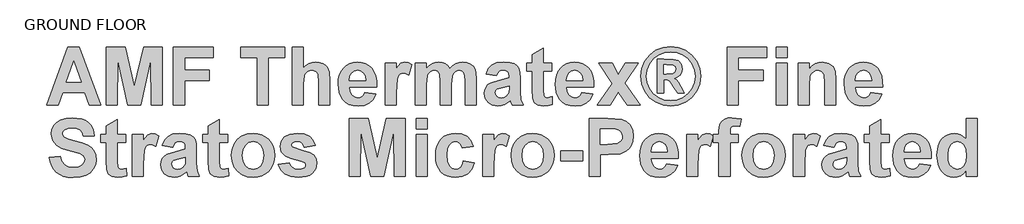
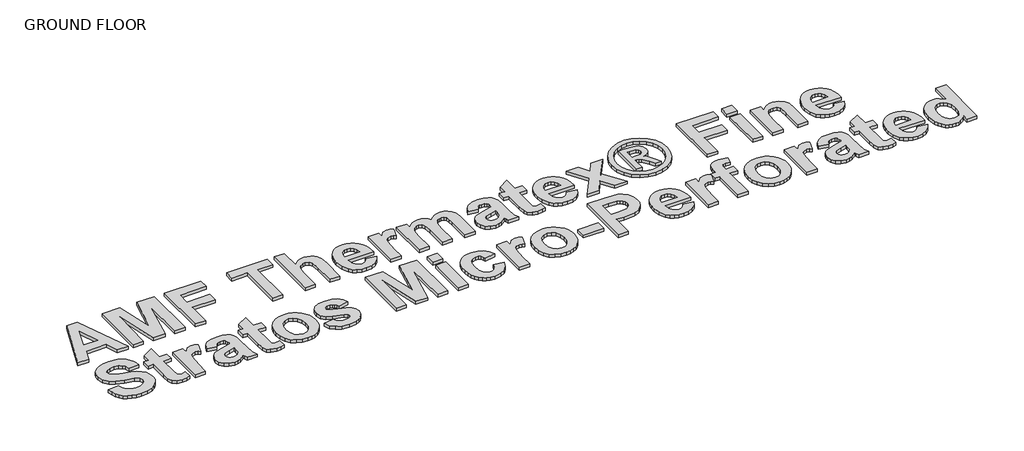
# One storey, part 2 of 2: 1 proxy.
"""IFC4 building model written with IfcOpenShell, lengths in millimetres."""

import ifcopenshell
import ifcopenshell.guid

model = None  # the IFC model being written
_history = None  # IfcOwnerHistory: only IFC2X3 demands one
_inside = {}  # id of a spatial element -> (the spatial element, [elements in it])
_under = {}  # id of a project, library or spatial element -> (it, [spatial elements below it])
_declared = {}  # id of a project -> (the project, [libraries it declares])
_typed = {}  # id of a type object -> (the type object, [elements of that type])
_made_of = {}  # id of a material, layer set ... -> (it, [elements and type objects made of it])


def new_model(schema):
    """Start an empty IFC model of exactly this schema.

    Asked for "IFC4X3", IfcOpenShell would pick the latest addendum, in which some entities
    have other attributes; the version numbers below select the first issue.
    IFC2X3 requires an IfcOwnerHistory on every rooted entity: one is made here for all.
    """
    global model, _history
    if schema == "IFC4X3":
        model = ifcopenshell.file(schema_version=(4, 3, 0, 0))
    else:
        model = ifcopenshell.file(schema=schema)
    _inside.clear()
    _under.clear()
    _declared.clear()
    _typed.clear()
    _made_of.clear()
    _history = None
    if model.schema == "IFC2X3":
        org = make("IfcOrganization", Name="unknown")
        user = make(
            "IfcPersonAndOrganization",
            ThePerson=make("IfcPerson", FamilyName="unknown"),
            TheOrganization=org,
        )
        app = make(
            "IfcApplication",
            ApplicationDeveloper=org,
            Version="unknown",
            ApplicationFullName="unknown",
            ApplicationIdentifier="unknown",
        )
        _history = make(
            "IfcOwnerHistory",
            OwningUser=user,
            OwningApplication=app,
            ChangeAction="ADDED",
            CreationDate=0,
        )
    return model


def make(cls, **values):
    """One entity of the class cls with the attributes given. An attribute that is None is left unset."""
    return model.create_entity(
        cls, **{name: value for name, value in values.items() if value is not None}
    )


def rooted(cls, **values):
    """An entity with a GlobalId (a new one), such as an element, a storey or a relation."""
    return make(cls, GlobalId=ifcopenshell.guid.new(), OwnerHistory=_history, **values)


def si_unit(unit_type, name, prefix=None):
    """IfcSIUnit, for example si_unit("LENGTHUNIT", "METRE", prefix="MILLI")."""
    return make("IfcSIUnit", UnitType=unit_type, Prefix=prefix, Name=name)


def assignment(units):
    """IfcUnitAssignment: the units of a project."""
    return None if units is None else make("IfcUnitAssignment", Units=units)


def point(xyz):
    """IfcCartesianPoint."""
    return None if xyz is None else make("IfcCartesianPoint", Coordinates=xyz)


def direction(xyz):
    """IfcDirection."""
    return None if xyz is None else make("IfcDirection", DirectionRatios=xyz)


def frame(location, z_axis=None, x_axis=None):
    """IfcAxis2Placement3D, a coordinate frame: its origin and axes. An axis left out is left unset."""
    return make(
        "IfcAxis2Placement3D",
        Location=point(location),
        Axis=direction(z_axis),
        RefDirection=direction(x_axis),
    )


def origin():
    """The frame at (0, 0, 0) with its axes left unset."""
    return frame((0.0, 0.0, 0.0))


def origin_with_axes():
    """The frame at (0, 0, 0) with the z axis (0, 0, 1) and the x axis (1, 0, 0) written out."""
    return frame((0.0, 0.0, 0.0), z_axis=(0.0, 0.0, 1.0), x_axis=(1.0, 0.0, 0.0))


def place(relative_to, where):
    """IfcLocalPlacement: puts the frame where relative to a parent placement (None: the world)."""
    return make(
        "IfcLocalPlacement", PlacementRelTo=relative_to, RelativePlacement=where
    )


def context(
    kind, dimensions, precision=None, world=None, true_north=None, identifier=None
):
    """IfcGeometricRepresentationContext, for example the 3D "Model" context."""
    return make(
        "IfcGeometricRepresentationContext",
        ContextIdentifier=identifier,
        ContextType=kind,
        CoordinateSpaceDimension=dimensions,
        Precision=precision,
        WorldCoordinateSystem=world,
        TrueNorth=true_north,
    )


def project(units=None, contexts=None):
    """IfcProject with its units and contexts."""
    return rooted(
        "IfcProject",
        Name="project",
        RepresentationContexts=contexts,
        UnitsInContext=assignment(units),
    )


def spatial(cls, under=None, at=None, **own):
    """A site, building, storey or space (cls), placed at a placement, below another one or the project."""
    s = rooted(cls, ObjectPlacement=at, **own)
    if under is not None:
        _under.setdefault(under.id(), (under, []))[1].append(s)
    return s


def polyline(points):
    """IfcPolyline through the points."""
    return make("IfcPolyline", Points=[point(p) for p in points])


def outline(outer, holes=None, kind="AREA"):
    """IfcArbitraryClosedProfileDef: a profile drawn as a closed curve; with holes, ...WithVoids."""
    if holes is None:
        return make("IfcArbitraryClosedProfileDef", ProfileType=kind, OuterCurve=outer)
    return make(
        "IfcArbitraryProfileDefWithVoids",
        ProfileType=kind,
        OuterCurve=outer,
        InnerCurves=holes,
    )


def extrude(swept, where, along, depth):
    """IfcExtrudedAreaSolid: the profile swept, set in the frame where, extruded along a direction by depth."""
    return make(
        "IfcExtrudedAreaSolid",
        SweptArea=swept,
        Position=where,
        ExtrudedDirection=direction(along),
        Depth=depth,
    )


def shape(context_of_items, identifier, shape_type, items):
    """IfcShapeRepresentation: the items that make up one representation, for example the "Body"."""
    return make(
        "IfcShapeRepresentation",
        ContextOfItems=context_of_items,
        RepresentationIdentifier=identifier,
        RepresentationType=shape_type,
        Items=items,
    )


def made_of(thing, what):
    """Note that an element or type object is made of a material, layer set ...; save() writes the relation."""
    if what is not None:
        _made_of.setdefault(what.id(), (what, []))[1].append(thing)
    return thing


def element(
    cls,
    number,
    at=None,
    inside=None,
    cuts=None,
    type_object=None,
    material=None,
    context=None,
    identifier="Body",
    shape_type=None,
    held_by="IfcProductDefinitionShape",
    body=None,
    shapes=None,
    **own,
):
    """One element of the class cls, such as IfcWall. Its Tag is "e" and its number.

    at: its placement. inside: the storey or other place that contains it. cuts: it is an
    opening in that element (IfcRelVoidsElement). A single representation is given by context,
    identifier, shape_type and body (its items); several are given by shapes. held_by: the class
    of the entity that holds the representations. save() writes the other relations.
    """
    e = rooted(cls, Tag="e%d" % number, ObjectPlacement=at, **own)
    if body is not None:
        shapes = [shape(context, identifier, shape_type, body)]
    if shapes is not None:
        e.Representation = make(held_by, Representations=shapes)
    if inside is not None:
        _inside.setdefault(inside.id(), (inside, []))[1].append(e)
    if cuts is not None:
        rooted(
            "IfcRelVoidsElement", RelatingBuildingElement=cuts, RelatedOpeningElement=e
        )
    if type_object is not None:
        _typed.setdefault(type_object.id(), (type_object, []))[1].append(e)
    return made_of(e, material)


def aggregate(whole, parts):
    """IfcRelAggregates: a whole, such as a stair, and the parts it consists of."""
    return rooted("IfcRelAggregates", RelatingObject=whole, RelatedObjects=parts)


def save(model, path):
    """Write the relations noted so far, then the file.

    IfcRelAggregates (storeys below a building ...), IfcRelContainedInSpatialStructure (elements
    in a storey), IfcRelDefinesByType, IfcRelAssociatesMaterial and IfcRelDeclares: one each for
    every whole, place, type object, material and project.
    """
    for whole, parts in _under.values():
        aggregate(whole, parts)
    for where, things in _inside.values():
        rooted(
            "IfcRelContainedInSpatialStructure",
            RelatedElements=things,
            RelatingStructure=where,
        )
    for kind, things in _typed.values():
        rooted("IfcRelDefinesByType", RelatedObjects=things, RelatingType=kind)
    for what, things in _made_of.values():
        rooted("IfcRelAssociatesMaterial", RelatedObjects=things, RelatingMaterial=what)
    for by, libraries in _declared.values():
        rooted("IfcRelDeclares", RelatingContext=by, RelatedDefinitions=libraries)
    model.write(path)


model = new_model("IFC4")

# Units and contexts
model_context = context("Model", 3, world=origin())
ifc_project = project(units=[si_unit("LENGTHUNIT", "METRE", prefix="MILLI")], contexts=[model_context])

# Site, building, storey
site = spatial("IfcSite", under=ifc_project)
building = spatial("IfcBuilding", under=site)
storey = spatial("IfcBuildingStorey", under=building, Name="GROUND FLOOR", Elevation=0.0)

# Proxy
placement = place(None, origin())
element("IfcBuildingElementProxy", 1, Name="600mm Arial", ObjectType="600mm Arial", at=placement, inside=storey, context=model_context, shape_type="SweptSolid", body=[
    extrude(outline(polyline([(-7411.3659202, -14237.2370141), (-7462.4168463, -14237.2370141), (-7482.4070478, -14180.5559363), (-7578.752228, -14180.5559363), (-7598.489389, -14237.2370141), (-7650.2361766, -14237.2370141), (-7557.1172631, -13982.1721641), (-7505.3704756, -13982.1721641), (-7411.3659202, -14237.2370141)]), holes=[polyline([(-7497.9690402, -14136.0208038), (-7530.8010484, -14042.9018903), (-7563.1902357, -14136.0208038), (-7497.9690402, -14136.0208038)])]), origin_with_axes(), (0.0, 0.0, 1.0), 15.0),
    extrude(outline(polyline([(-7387.0740298, -14237.2370141), (-7387.0740298, -13982.1721641), (-7303.8236968, -13982.1721641), (-7263.5902532, -14156.1375256), (-7223.3568096, -13982.1721641), (-7140.1064766, -13982.1721641), (-7140.1064766, -14237.2370141), (-7188.6902575, -14237.2370141), (-7190.7145817, -14036.4493569), (-7235.123194, -14237.2370141), (-7291.9940522, -14237.2370141), (-7336.4659246, -14036.4493569), (-7338.4902488, -14237.2370141), (-7387.0740298, -14237.2370141)])), origin_with_axes(), (0.0, 0.0, 1.0), 15.0),
    extrude(outline(polyline([(-7091.5226956, -14237.2370141), (-7091.5226956, -13982.1721641), (-6917.4308139, -13982.1721641), (-6917.4308139, -14026.7072966), (-7042.9389147, -14026.7072966), (-7042.9389147, -14083.3883744), (-6933.6254076, -14083.3883744), (-6933.6254076, -14127.9235069), (-7042.9389147, -14127.9235069), (-7042.9389147, -14237.2370141), (-7091.5226956, -14237.2370141)])), origin_with_axes(), (0.0, 0.0, 1.0), 15.0),
    extrude(outline(polyline([(-6723.0956901, -14237.2370141), (-6723.0956901, -14026.7072966), (-6795.9713615, -14026.7072966), (-6795.9713615, -13982.1721641), (-6601.6362377, -13982.1721641), (-6601.6362377, -14026.7072966), (-6674.5119092, -14026.7072966), (-6674.5119092, -14237.2370141), (-6723.0956901, -14237.2370141)])), origin_with_axes(), (0.0, 0.0, 1.0), 15.0),
    extrude(outline(polyline([(-6520.6632695, -13982.1721641), (-6520.6632695, -14074.531956), (-6508.4580179, -14062.4650859), (-6495.1219914, -14053.845893), (-6480.6551901, -14048.6743773), (-6465.0576139, -14046.9505387), (-6449.2425811, -14048.5241345), (-6435.0723116, -14053.2449218), (-6423.3691873, -14060.4249467), (-6414.9555898, -14069.3762553), (-6405.7196106, -14091.1061104), (-6403.2524655, -14128.0500272), (-6403.2524655, -14237.2370141), (-6451.8362465, -14237.2370141), (-6451.8362465, -14138.1716482), (-6454.5564321, -14100.6900203), (-6464.1719721, -14088.0696241), (-6481.3787278, -14083.3883744), (-6492.6390312, -14084.8908025), (-6502.634132, -14089.3980869), (-6510.7393364, -14096.9260425), (-6516.3299505, -14107.4904845), (-6520.6632695, -14143.2957189), (-6520.6632695, -14237.2370141), (-6569.2470504, -14237.2370141), (-6569.2470504, -13982.1721641), (-6520.6632695, -13982.1721641)])), origin_with_axes(), (0.0, 0.0, 1.0), 15.0),
    extrude(outline(polyline([(-6249.4038258, -14180.5559363), (-6200.8200449, -14188.6532331), (-6212.6496895, -14211.3240827), (-6229.7931851, -14227.8428846), (-6252.0765664, -14237.924968), (-6279.325868, -14241.2856625), (-6301.3285325, -14239.3048296), (-6320.2709881, -14233.362331), (-6336.1532348, -14223.4581667), (-6348.9752727, -14209.5923366), (-6362.3547905, -14180.888052), (-6366.8146298, -14145.5098235), (-6365.3359242, -14123.6692631), (-6360.8998075, -14104.3274779), (-6353.5062796, -14087.4844679), (-6343.1553406, -14073.1402331), (-6330.5428519, -14061.6822418), (-6316.364675, -14053.4979623), (-6300.6208098, -14048.5873946), (-6283.3112563, -14046.9505387), (-6264.0762226, -14048.6308859), (-6246.9841258, -14053.6719277), (-6232.034966, -14062.0736639), (-6219.2287431, -14073.8360945), (-6209.0240932, -14089.069925), (-6201.8796521, -14107.8858603), (-6197.7954199, -14130.2839006), (-6196.7713965, -14156.2640458), (-6318.2308488, -14156.2640458), (-6315.1152874, -14176.7286983), (-6306.7807651, -14192.0692802), (-6294.4924845, -14201.6531901), (-6279.5156484, -14204.8478268), (-6269.3149522, -14203.4086588), (-6260.8539096, -14199.0911548), (-6254.1957808, -14191.5790142), (-6249.4038258, -14180.5559363)]), holes=[polyline([(-6245.3551774, -14127.9235069), (-6248.3125886, -14108.7161495), (-6256.1726599, -14094.743568), (-6267.5911136, -14086.2271728), (-6281.223672, -14083.3883744), (-6295.6153519, -14086.3774156), (-6307.2868461, -14095.3445392), (-6314.941322, -14109.4989937), (-6317.4084671, -14127.9235069), (-6245.3551774, -14127.9235069)])]), origin_with_axes(), (0.0, 0.0, 1.0), 15.0),
    extrude(outline(polyline([(-6111.7497798, -14237.2370141), (-6160.3335608, -14237.2370141), (-6160.3335608, -14050.9991871), (-6111.7497798, -14050.9991871), (-6111.7497798, -14076.935841), (-6092.3289195, -14052.7388407), (-6072.7182787, -14046.9505387), (-6057.5516622, -14049.512574), (-6042.9227568, -14057.19868), (-6057.0930262, -14103.4418361), (-6068.7961506, -14097.5111987), (-6079.613633, -14095.5343196), (-6096.7254986, -14101.0695811), (-6102.9724366, -14108.8268548), (-6107.7327615, -14121.0281526), (-6111.7497798, -14181.5048383), (-6111.7497798, -14237.2370141)])), origin_with_axes(), (0.0, 0.0, 1.0), 15.0),
    extrude(outline(polyline([(-6026.7281631, -14050.9991871), (-5978.1443822, -14050.9991871), (-5978.1443822, -14075.9236789), (-5966.1842636, -14063.24793), (-5953.1408152, -14054.1938237), (-5939.0140371, -14048.7613599), (-5923.8039293, -14046.9505387), (-5908.1549543, -14048.7297299), (-5894.7358989, -14054.0673035), (-5883.5309481, -14063.0107046), (-5874.5242869, -14075.6073782), (-5862.0857635, -14063.0107046), (-5848.6825232, -14054.0673035), (-5834.3303809, -14048.7297299), (-5819.0451516, -14046.9505387), (-5800.5890083, -14049.0302155), (-5785.2009813, -14055.269246), (-5773.0866661, -14065.5411098), (-5764.4516582, -14079.7192868), (-5760.7509405, -14095.2970941), (-5759.5173679, -14118.2447068), (-5759.5173679, -14237.2370141), (-5808.1011489, -14237.2370141), (-5808.1011489, -14130.0110913), (-5809.3347214, -14107.0634786), (-5813.0354391, -14094.0160765), (-5821.4174065, -14086.0452999), (-5833.4052014, -14083.3883744), (-5843.1077241, -14084.9777852), (-5852.2250906, -14089.7460176), (-5859.8163063, -14097.5823664), (-5864.940377, -14108.3761263), (-5868.8308751, -14147.1545869), (-5868.8308751, -14237.2370141), (-5917.414656, -14237.2370141), (-5917.414656, -14134.4393005), (-5919.9450613, -14099.1085171), (-5927.7576875, -14087.2788725), (-5942.1493674, -14083.3883744), (-5952.539844, -14084.9303401), (-5961.8232683, -14089.5562372), (-5969.3195939, -14097.1000079), (-5974.3487743, -14107.3955943), (-5978.1443822, -14146.0791647), (-5978.1443822, -14237.2370141), (-6026.7281631, -14237.2370141), (-6026.7281631, -14050.9991871)])), origin_with_axes(), (0.0, 0.0, 1.0), 15.0),
    extrude(outline(polyline([(-5670.4471028, -14107.6802649), (-5714.9822354, -14099.582968), (-5705.3271578, -14076.2399795), (-5690.5321946, -14059.8556055), (-5668.9683973, -14050.1768054), (-5639.0068175, -14046.9505387), (-5611.9156662, -14048.9036952), (-5592.7636614, -14054.7631649), (-5579.8269645, -14063.6195833), (-5571.381737, -14074.5635861), (-5566.7321173, -14091.5726539), (-5565.1822441, -14118.6242676), (-5565.1822441, -14176.064467), (-5562.6202088, -14212.2492622), (-5553.0362989, -14237.2370141), (-5601.6200798, -14237.2370141), (-5606.1748093, -14221.801542), (-5607.8828328, -14215.6653093), (-5633.8827469, -14234.8647591), (-5648.1953516, -14239.6804367), (-5663.4252283, -14241.2856625), (-5688.1994772, -14237.3872569), (-5707.106349, -14225.6920401), (-5719.0862364, -14208.0503709), (-5723.0795322, -14186.3126083), (-5721.300341, -14171.4148473), (-5715.9627674, -14158.2251099), (-5707.4147422, -14147.3285523), (-5696.0041959, -14139.3103306), (-5658.9970191, -14127.8602468), (-5613.7660251, -14115.7775617), (-5613.7660251, -14110.6534911), (-5615.2763607, -14098.0330948), (-5619.8073676, -14089.6511274), (-5628.5135432, -14084.9540627), (-5642.5493849, -14083.3883744), (-5652.6235608, -14084.7326522), (-5660.1989616, -14088.7654856), (-5670.4471028, -14107.6802649)]), holes=[polyline([(-5613.7660251, -14152.2153974), (-5641.157662, -14158.9526014), (-5665.702593, -14166.6387074), (-5672.2974617, -14173.5498767), (-5674.4957513, -14182.1374396), (-5672.7323751, -14190.748725), (-5667.4422466, -14198.1106228), (-5659.4319325, -14203.1635258), (-5649.5079993, -14204.8478268), (-5637.5992796, -14202.8867627), (-5626.2915311, -14197.0035705), (-5615.5373087, -14182.4537402), (-5613.7660251, -14161.0085557), (-5613.7660251, -14152.2153974)])]), origin_with_axes(), (0.0, 0.0, 1.0), 15.0),
    extrude(outline(polyline([(-5427.5281981, -14050.9991871), (-5427.5281981, -14087.4370228), (-5463.9660338, -14087.4370228), (-5463.9660338, -14167.3345688), (-5462.8589815, -14195.5802175), (-5457.8298011, -14202.2225313), (-5448.2775212, -14204.8478268), (-5425.5038739, -14200.166577), (-5423.4795497, -14234.7066088), (-5442.2203636, -14239.6408991), (-5463.2701724, -14241.2856625), (-5487.8151034, -14236.730933), (-5503.8515467, -14224.9645486), (-5510.9683115, -14205.417168), (-5512.5498148, -14170.0547545), (-5512.5498148, -14087.4370228), (-5536.8417052, -14087.4370228), (-5536.8417052, -14050.9991871), (-5512.5498148, -14050.9991871), (-5512.5498148, -14014.5613514), (-5463.9660338, -13986.2208125), (-5463.9660338, -14050.9991871), (-5427.5281981, -14050.9991871)])), origin_with_axes(), (0.0, 0.0, 1.0), 15.0),
    extrude(outline(polyline([(-5293.9228005, -14180.5559363), (-5245.3390195, -14188.6532331), (-5257.1686641, -14211.3240827), (-5274.3121597, -14227.8428846), (-5296.595541, -14237.924968), (-5323.8448427, -14241.2856625), (-5345.8475071, -14239.3048296), (-5364.7899627, -14233.362331), (-5380.6722095, -14223.4581667), (-5393.4942474, -14209.5923366), (-5406.8737652, -14180.888052), (-5411.3336044, -14145.5098235), (-5409.8548989, -14123.6692631), (-5405.4187822, -14104.3274779), (-5398.0252543, -14087.4844679), (-5387.6743153, -14073.1402331), (-5375.0618266, -14061.6822418), (-5360.8836496, -14053.4979623), (-5345.1397844, -14048.5873946), (-5327.8302309, -14046.9505387), (-5308.5951972, -14048.6308859), (-5291.5031005, -14053.6719277), (-5276.5539406, -14062.0736639), (-5263.7477178, -14073.8360945), (-5253.5430678, -14089.069925), (-5246.3986267, -14107.8858603), (-5242.3143945, -14130.2839006), (-5241.2903711, -14156.2640458), (-5362.7498235, -14156.2640458), (-5359.634262, -14176.7286983), (-5351.2997397, -14192.0692802), (-5339.0114592, -14201.6531901), (-5324.034623, -14204.8478268), (-5313.8339269, -14203.4086588), (-5305.3728843, -14199.0911548), (-5298.7147554, -14191.5790142), (-5293.9228005, -14180.5559363)]), holes=[polyline([(-5289.8741521, -14127.9235069), (-5292.8315632, -14108.7161495), (-5300.6916345, -14094.743568), (-5312.1100883, -14086.2271728), (-5325.7426466, -14083.3883744), (-5340.1343265, -14086.3774156), (-5351.8058208, -14095.3445392), (-5359.4602967, -14109.4989937), (-5361.9274418, -14127.9235069), (-5289.8741521, -14127.9235069)])]), origin_with_axes(), (0.0, 0.0, 1.0), 15.0),
    extrude(outline(polyline([(-5227.1201017, -14237.2370141), (-5161.329565, -14141.3346548), (-5219.0228048, -14050.9991871), (-5161.2663048, -14050.9991871), (-5133.1788065, -14102.1766334), (-5102.6874231, -14050.9991871), (-5044.9309231, -14050.9991871), (-5104.3321865, -14139.1838103), (-5036.8336263, -14237.2370141), (-5094.5901263, -14237.2370141), (-5133.1788065, -14179.5437742), (-5169.3636017, -14237.2370141), (-5227.1201017, -14237.2370141)])), origin_with_axes(), (0.0, 0.0, 1.0), 15.0),
    extrude(outline(polyline([(-4903.2282287, -13978.1235157), (-4870.0720123, -13982.354037), (-4838.2917037, -13995.0456008), (-4810.5284136, -14015.6367736), (-4789.4232522, -14043.5661217), (-4776.0911795, -14075.8999563), (-4771.6471553, -14109.7045891), (-4776.0041968, -14143.2640888), (-4789.0753215, -14175.2420853), (-4809.9432573, -14202.9895604), (-4837.6907325, -14223.8574963), (-4869.6687289, -14236.9286209), (-4903.2282287, -14241.2856625), (-4936.7877284, -14236.9286209), (-4968.7657248, -14223.8574963), (-4996.5132, -14202.9895604), (-5017.3811359, -14175.2420853), (-5030.4522605, -14143.2640888), (-5034.8093021, -14109.7045891), (-5030.3652778, -14075.8999563), (-5017.0332051, -14043.5661217), (-4995.9280438, -14015.6367736), (-4968.1647536, -13995.0456008), (-4936.3844451, -13982.354037), (-4903.2282287, -13978.1235157)]), holes=[polyline([(-4903.2914888, -14002.4154061), (-4930.2956574, -14005.8551758), (-4956.1453286, -14016.1744847), (-4978.7371031, -14032.9305121), (-4995.9675814, -14055.6804368), (-5006.879954, -14082.0440966), (-5010.5174116, -14109.6413289), (-5006.9669367, -14137.0092433), (-4996.3155121, -14163.06451), (-4979.2985367, -14185.6800069), (-4956.6514097, -14202.7286124), (-4930.580328, -14213.4274821), (-4903.2914888, -14216.993772), (-4875.931482, -14213.4274821), (-4849.8999379, -14202.7286124), (-4827.3002559, -14185.6800069), (-4810.2358354, -14163.06451), (-4799.5132432, -14137.0092433), (-4795.9390457, -14109.6413289), (-4799.5765033, -14082.0440966), (-4810.488876, -14055.6804368), (-4827.7430768, -14032.9305121), (-4850.4060189, -14016.1744847), (-4876.3110427, -14005.8551758), (-4903.2914888, -14002.4154061)])]), origin_with_axes(), (0.0, 0.0, 1.0), 15.0),
    extrude(outline(polyline([(-4961.9336307, -14184.6045847), (-4961.9336307, -14034.8045934), (-4934.5419937, -14034.8045934), (-4891.4618442, -14035.1841542), (-4870.3013303, -14041.1622367), (-4857.680934, -14055.5539166), (-4852.6201235, -14076.9991011), (-4854.9686559, -14092.0233823), (-4862.014253, -14104.7070387), (-4873.314094, -14114.0379081), (-4888.4253579, -14119.0038284), (-4878.6516676, -14124.6339801), (-4869.194278, -14136.147324), (-4858.8828765, -14154.3662419), (-4844.5228267, -14184.6045847), (-4872.8633656, -14184.6045847), (-4886.8438546, -14160.6289949), (-4908.2574091, -14130.1376115), (-4916.4733187, -14125.4405468), (-4926.6344773, -14123.8748585), (-4933.5930918, -14123.8748585), (-4933.5930918, -14184.6045847), (-4961.9336307, -14184.6045847)]), holes=[polyline([(-4933.5930918, -14099.582968), (-4922.5225688, -14099.582968), (-4893.2331279, -14097.5902739), (-4884.2501892, -14090.5683993), (-4880.9606624, -14079.1499456), (-4884.1869291, -14068.1110527), (-4893.3596482, -14061.1840683), (-4922.5225688, -14059.0964839), (-4933.5930918, -14059.0964839), (-4933.5930918, -14099.582968)])]), origin_with_axes(), (0.0, 0.0, 1.0), 15.0),
    extrude(outline(polyline([(-4654.2363513, -14237.2370141), (-4654.2363513, -13982.1721641), (-4480.1444696, -13982.1721641), (-4480.1444696, -14026.7072966), (-4605.6525704, -14026.7072966), (-4605.6525704, -14083.3883744), (-4496.3390632, -14083.3883744), (-4496.3390632, -14127.9235069), (-4605.6525704, -14127.9235069), (-4605.6525704, -14237.2370141), (-4654.2363513, -14237.2370141)])), origin_with_axes(), (0.0, 0.0, 1.0), 15.0),
    extrude(outline(polyline([(-4439.6579854, -14026.7072966), (-4439.6579854, -13982.1721641), (-4391.0742045, -13982.1721641), (-4391.0742045, -14026.7072966), (-4439.6579854, -14026.7072966)])), origin_with_axes(), (0.0, 0.0, 1.0), 15.0),
    extrude(outline(polyline([(-4439.6579854, -14237.2370141), (-4439.6579854, -14050.9991871), (-4391.0742045, -14050.9991871), (-4391.0742045, -14237.2370141), (-4439.6579854, -14237.2370141)])), origin_with_axes(), (0.0, 0.0, 1.0), 15.0),
    extrude(outline(polyline([(-4176.4958386, -14237.2370141), (-4225.0796196, -14237.2370141), (-4225.0796196, -14141.5244352), (-4228.1161059, -14102.1766334), (-4238.0479465, -14088.3226647), (-4254.5588408, -14083.3883744), (-4266.3173178, -14085.1517506), (-4276.794777, -14090.4418791), (-4285.0818542, -14098.6498811), (-4290.269185, -14109.166878), (-4293.9066426, -14152.2786575), (-4293.9066426, -14237.2370141), (-4342.4904235, -14237.2370141), (-4342.4904235, -14050.9991871), (-4293.9066426, -14050.9991871), (-4293.9066426, -14077.8214828), (-4281.6144083, -14064.3154448), (-4267.8276534, -14054.6682747), (-4252.5463779, -14048.8799727), (-4235.7705818, -14046.9505387), (-4207.5565632, -14052.8337309), (-4188.1989629, -14067.8263821), (-4179.0578739, -14088.480815), (-4176.4958386, -14121.5974938), (-4176.4958386, -14237.2370141)])), origin_with_axes(), (0.0, 0.0, 1.0), 15.0),
    extrude(outline(polyline([(-4022.6471989, -14180.5559363), (-3974.063418, -14188.6532331), (-3985.8930626, -14211.3240827), (-4003.0365582, -14227.8428846), (-4025.3199395, -14237.924968), (-4052.5692411, -14241.2856625), (-4074.5719056, -14239.3048296), (-4093.5143612, -14233.362331), (-4109.3966079, -14223.4581667), (-4122.2186458, -14209.5923366), (-4135.5981636, -14180.888052), (-4140.0580029, -14145.5098235), (-4138.5792973, -14123.6692631), (-4134.1431806, -14104.3274779), (-4126.7496528, -14087.4844679), (-4116.3987137, -14073.1402331), (-4103.786225, -14061.6822418), (-4089.6080481, -14053.4979623), (-4073.8641829, -14048.5873946), (-4056.5546294, -14046.9505387), (-4037.3195957, -14048.6308859), (-4020.2274989, -14053.6719277), (-4005.2783391, -14062.0736639), (-3992.4721162, -14073.8360945), (-3982.2674663, -14089.069925), (-3975.1230252, -14107.8858603), (-3971.038793, -14130.2839006), (-3970.0147696, -14156.2640458), (-4091.474222, -14156.2640458), (-4088.3586605, -14176.7286983), (-4080.0241382, -14192.0692802), (-4067.7358576, -14201.6531901), (-4052.7590215, -14204.8478268), (-4042.5583253, -14203.4086588), (-4034.0972827, -14199.0911548), (-4027.4391539, -14191.5790142), (-4022.6471989, -14180.5559363)]), holes=[polyline([(-4018.5985505, -14127.9235069), (-4021.5559617, -14108.7161495), (-4029.416033, -14094.743568), (-4040.8344867, -14086.2271728), (-4054.4670451, -14083.3883744), (-4068.858725, -14086.3774156), (-4080.5302192, -14095.3445392), (-4088.1846951, -14109.4989937), (-4090.6518403, -14127.9235069), (-4018.5985505, -14127.9235069)])]), origin_with_axes(), (0.0, 0.0, 1.0), 15.0),
    extrude(outline(polyline([(-7638.0902313, -14466.993772), (-7589.5064504, -14462.9451236), (-7582.4213157, -14484.6749788), (-7570.5284109, -14499.7625201), (-7553.7486611, -14508.5873084), (-7532.0029909, -14511.5289045), (-7509.434939, -14508.9273316), (-7493.2245303, -14501.1226129), (-7483.45084, -14489.838587), (-7480.1929432, -14476.7990924), (-7485.6016845, -14461.5850308), (-7504.5480939, -14450.6726581), (-7546.6793414, -14439.8551756), (-7582.6427261, -14428.6739474), (-7606.0173447, -14414.993944), (-7623.9990371, -14391.6984006), (-7629.9929345, -14363.8164976), (-7627.2411188, -14345.0282386), (-7618.9856716, -14327.5051822), (-7605.5428937, -14312.6232363), (-7587.2290857, -14301.7583087), (-7564.3447331, -14295.1159949), (-7537.1903217, -14292.9018903), (-7495.225132, -14298.4213367), (-7478.6845845, -14305.3206448), (-7465.1054019, -14314.9796761), (-7454.4440929, -14326.9397947), (-7446.6571661, -14340.7423647), (-7441.7446215, -14356.3873859), (-7439.7064591, -14373.8748585), (-7488.2902401, -14373.8748585), (-7493.6594437, -14357.1820913), (-7502.9349605, -14345.9455105), (-7516.9708022, -14339.5641447), (-7536.6209805, -14337.4370228), (-7557.3070435, -14339.6985725), (-7572.9322959, -14346.4832216), (-7579.2899392, -14353.2836857), (-7581.4091536, -14362.0452139), (-7579.4797195, -14370.3164761), (-7573.6914175, -14377.2909056), (-7556.8879451, -14385.4593701), (-7526.0881686, -14393.8966901), (-7493.2166228, -14402.6740334), (-7470.1978425, -14411.8625675), (-7454.066509, -14422.9884431), (-7441.8573036, -14437.5778109), (-7434.1711976, -14455.8125438), (-7431.6091623, -14477.8745146), (-7434.6377411, -14498.9401384), (-7443.7234775, -14518.6140393), (-7458.3523829, -14535.1565636), (-7478.0104687, -14546.8280579), (-7502.911238, -14553.7550423), (-7533.2681935, -14556.0640371), (-7555.9706732, -14554.642661), (-7575.8738921, -14550.3785328), (-7592.9778501, -14543.2716524), (-7607.2825473, -14533.3220198), (-7618.8868277, -14520.6482479), (-7627.8895351, -14505.3689492), (-7634.2906697, -14487.484124), (-7638.0902313, -14466.993772)])), origin_with_axes(), (0.0, 0.0, 1.0), 15.0),
    extrude(outline(polyline([(-7302.0524131, -14365.7775617), (-7302.0524131, -14402.2153974), (-7338.4902488, -14402.2153974), (-7338.4902488, -14482.1129434), (-7337.3831965, -14510.3585921), (-7332.3540161, -14517.0009059), (-7322.8017362, -14519.6262014), (-7300.0280889, -14514.9449516), (-7298.0037647, -14549.4849834), (-7316.7445786, -14554.4192737), (-7337.7943874, -14556.0640371), (-7362.3393184, -14551.5093076), (-7378.3757617, -14539.7429232), (-7385.4925265, -14520.1955426), (-7387.0740298, -14484.8331291), (-7387.0740298, -14402.2153974), (-7411.3659202, -14402.2153974), (-7411.3659202, -14365.7775617), (-7387.0740298, -14365.7775617), (-7387.0740298, -14329.339726), (-7338.4902488, -14300.9991871), (-7338.4902488, -14365.7775617), (-7302.0524131, -14365.7775617)])), origin_with_axes(), (0.0, 0.0, 1.0), 15.0),
    extrude(outline(polyline([(-7225.1280933, -14552.0153887), (-7273.7118742, -14552.0153887), (-7273.7118742, -14365.7775617), (-7225.1280933, -14365.7775617), (-7225.1280933, -14391.7142156), (-7205.7072329, -14367.5172153), (-7186.0965922, -14361.7289133), (-7170.9299756, -14364.2909486), (-7156.3010702, -14371.9770546), (-7170.4713397, -14418.2202107), (-7182.174464, -14412.2895733), (-7192.9919465, -14410.3126942), (-7210.103812, -14415.8479557), (-7216.35075, -14423.6052294), (-7221.1110749, -14435.8065272), (-7225.1280933, -14496.2832129), (-7225.1280933, -14552.0153887)])), origin_with_axes(), (0.0, 0.0, 1.0), 15.0),
    extrude(outline(polyline([(-7095.5713441, -14422.4586395), (-7140.1064766, -14414.3613426), (-7130.451399, -14391.0183541), (-7115.6564358, -14374.6339801), (-7094.0926385, -14364.95518), (-7064.1310587, -14361.7289133), (-7037.0399074, -14363.6820698), (-7017.8879026, -14369.5415395), (-7004.9512058, -14378.3979579), (-6996.5059782, -14389.3419607), (-6991.8563585, -14406.3510285), (-6990.3064853, -14433.4026422), (-6990.3064853, -14490.8428416), (-6987.74445, -14527.0276368), (-6978.1605401, -14552.0153887), (-7026.744321, -14552.0153887), (-7031.2990505, -14536.5799166), (-7033.0070741, -14530.4436839), (-7059.0069881, -14549.6431337), (-7073.3195928, -14554.4588113), (-7088.5494695, -14556.0640371), (-7113.3237184, -14552.1656315), (-7132.2305902, -14540.4704147), (-7144.2104776, -14522.8287455), (-7148.2037734, -14501.0909829), (-7146.4245822, -14486.1932219), (-7141.0870086, -14473.0034845), (-7132.5389834, -14462.1069269), (-7121.1284372, -14454.0887052), (-7084.1212603, -14442.6386214), (-7038.8902663, -14430.5559363), (-7038.8902663, -14425.4318657), (-7040.4006019, -14412.8114694), (-7044.9316088, -14404.429502), (-7053.6377844, -14399.7324373), (-7067.6736261, -14398.166749), (-7077.747802, -14399.5110268), (-7085.3232028, -14403.5438602), (-7095.5713441, -14422.4586395)]), holes=[polyline([(-7038.8902663, -14466.993772), (-7066.2819032, -14473.730976), (-7090.8268342, -14481.417082), (-7097.4217029, -14488.3282513), (-7099.6199925, -14496.9158142), (-7097.8566163, -14505.5270996), (-7092.5664878, -14512.8889974), (-7084.5561737, -14517.9419004), (-7074.6322405, -14519.6262014), (-7062.7235208, -14517.6651373), (-7051.4157723, -14511.7819451), (-7040.66155, -14497.2321148), (-7038.8902663, -14475.7869303), (-7038.8902663, -14466.993772)])]), origin_with_axes(), (0.0, 0.0, 1.0), 15.0),
    extrude(outline(polyline([(-6852.6524393, -14365.7775617), (-6852.6524393, -14402.2153974), (-6889.090275, -14402.2153974), (-6889.090275, -14482.1129434), (-6887.9832227, -14510.3585921), (-6882.9540423, -14517.0009059), (-6873.4017624, -14519.6262014), (-6850.6281151, -14514.9449516), (-6848.6037909, -14549.4849834), (-6867.3446048, -14554.4192737), (-6888.3944136, -14556.0640371), (-6912.9393446, -14551.5093076), (-6928.9757879, -14539.7429232), (-6936.0925527, -14520.1955426), (-6937.674056, -14484.8331291), (-6937.674056, -14402.2153974), (-6961.9659464, -14402.2153974), (-6961.9659464, -14365.7775617), (-6937.674056, -14365.7775617), (-6937.674056, -14329.339726), (-6889.090275, -14300.9991871), (-6889.090275, -14365.7775617), (-6852.6524393, -14365.7775617)])), origin_with_axes(), (0.0, 0.0, 1.0), 15.0),
    extrude(outline(polyline([(-6836.4578457, -14456.2395497), (-6833.4608969, -14432.1453471), (-6824.4700507, -14408.8260811), (-6809.9913882, -14388.6065616), (-6790.5309902, -14373.8115984), (-6767.2987069, -14364.7495846), (-6741.5043884, -14361.7289133), (-6721.5122099, -14363.4408906), (-6703.4138817, -14368.5768225), (-6687.2094037, -14377.1367091), (-6672.8987758, -14389.1205502), (-6661.2055359, -14403.7217793), (-6652.8532216, -14420.1338296), (-6647.8418331, -14438.3567013), (-6646.1713703, -14458.3903941), (-6647.859625, -14478.5842142), (-6652.9243893, -14496.9711668), (-6661.3656631, -14513.5512519), (-6673.1834464, -14528.3244694), (-6687.5593113, -14540.4605303), (-6703.6748297, -14549.1291452), (-6721.5300018, -14554.3303141), (-6741.1248276, -14556.0640371), (-6765.8990765, -14553.1777936), (-6789.4871981, -14544.5190631), (-6809.7304401, -14530.277626), (-6824.4700507, -14510.6432627), (-6833.4608969, -14485.8769212), (-6836.4578457, -14456.2395497)]), holes=[polyline([(-6787.8740647, -14458.8964752), (-6784.5133702, -14484.8726667), (-6774.4312868, -14503.9693188), (-6759.4149131, -14515.7119807), (-6741.2513478, -14519.6262014), (-6723.1035976, -14515.7119807), (-6708.134669, -14503.9693188), (-6698.1000307, -14484.7777765), (-6694.7551512, -14458.5169144), (-6698.1000307, -14432.8253935), (-6708.134669, -14413.8236315), (-6723.1035976, -14402.0809696), (-6741.2513478, -14398.166749), (-6759.4149131, -14402.0809696), (-6774.4312868, -14413.8236315), (-6784.5133702, -14432.9202837), (-6787.8740647, -14458.8964752)])]), origin_with_axes(), (0.0, 0.0, 1.0), 15.0),
    extrude(outline(polyline([(-6629.9767766, -14499.3829593), (-6581.3929957, -14491.2856625), (-6576.7670986, -14503.5264979), (-6568.9623798, -14512.4145464), (-6557.709984, -14517.8232876), (-6542.7410554, -14519.6262014), (-6526.4990166, -14517.9023628), (-6514.8433374, -14512.730847), (-6510.0988275, -14507.1006953), (-6508.5173242, -14499.8257802), (-6511.8701112, -14490.7163213), (-6527.7484042, -14484.327048), (-6574.6716067, -14471.8964322), (-6600.5608155, -14460.5412386), (-6616.5498137, -14442.5595462), (-6621.8794798, -14418.7262917), (-6617.3089353, -14396.5378006), (-6603.5973018, -14378.1765475), (-6580.2701283, -14365.8408218), (-6546.8529639, -14361.7289133), (-6514.9856727, -14365.0500702), (-6492.512511, -14375.0135409), (-6477.5040448, -14391.4928051), (-6468.0308401, -14414.3613426), (-6516.6146211, -14422.4586395), (-6520.1888185, -14412.0681629), (-6525.9771205, -14404.429502), (-6534.3274579, -14399.7324373), (-6545.5877613, -14398.166749), (-6559.425915, -14399.4952118), (-6568.6777092, -14403.4806), (-6573.2956988, -14413.3491805), (-6568.6777092, -14422.1423388), (-6525.6924499, -14435.7432671), (-6494.4656675, -14445.5644025), (-6474.3568533, -14457.4414922), (-6463.5393708, -14473.1141897), (-6459.9335433, -14493.942588), (-6465.1604116, -14517.6414148), (-6480.8410167, -14537.750229), (-6492.5500717, -14545.7625201), (-6506.7697631, -14551.4855851), (-6542.7410554, -14556.0640371), (-6576.0554221, -14552.2526142), (-6601.6046077, -14540.8183454), (-6619.5309474, -14522.836653), (-6629.9767766, -14499.3829593)])), origin_with_axes(), (0.0, 0.0, 1.0), 15.0),
    extrude(outline(polyline([(-6318.2308488, -14552.0153887), (-6318.2308488, -14296.9505387), (-6234.9805159, -14296.9505387), (-6194.7470723, -14470.9159002), (-6154.5136287, -14296.9505387), (-6071.2632957, -14296.9505387), (-6071.2632957, -14552.0153887), (-6119.8470766, -14552.0153887), (-6121.8714008, -14351.2277315), (-6166.2800131, -14552.0153887), (-6223.1508713, -14552.0153887), (-6267.6227437, -14351.2277315), (-6269.6470679, -14552.0153887), (-6318.2308488, -14552.0153887)])), origin_with_axes(), (0.0, 0.0, 1.0), 15.0),
    extrude(outline(polyline([(-6022.6795147, -14341.4856712), (-6022.6795147, -14296.9505387), (-5974.0957338, -14296.9505387), (-5974.0957338, -14341.4856712), (-6022.6795147, -14341.4856712)])), origin_with_axes(), (0.0, 0.0, 1.0), 15.0),
    extrude(outline(polyline([(-6022.6795147, -14552.0153887), (-6022.6795147, -14365.7775617), (-5974.0957338, -14365.7775617), (-5974.0957338, -14552.0153887), (-6022.6795147, -14552.0153887)])), origin_with_axes(), (0.0, 0.0, 1.0), 15.0),
    extrude(outline(polyline([(-5771.6633132, -14418.4099911), (-5820.2470941, -14426.5072879), (-5823.9715343, -14414.1478397), (-5830.5901256, -14405.2835138), (-5839.8656424, -14399.9459402), (-5851.5608592, -14398.166749), (-5866.9647012, -14401.5037209), (-5878.889236, -14411.5146367), (-5886.5278968, -14429.3381788), (-5889.0741171, -14456.1130294), (-5886.4250991, -14485.7978461), (-5878.4780451, -14505.2661515), (-5866.0711518, -14516.0361889), (-5850.042616, -14519.6262014), (-5837.9045783, -14517.5781546), (-5828.1862406, -14511.4340144), (-5820.935048, -14500.2765087), (-5816.1984457, -14483.1883657), (-5767.6146647, -14491.2856625), (-5778.2502743, -14519.4285135), (-5795.6072729, -14539.7112931), (-5819.8438108, -14551.9758511), (-5851.1180383, -14556.0640371), (-5869.8845516, -14554.4548575), (-5886.6465096, -14549.6273187), (-5901.4039121, -14541.5814207), (-5914.1567592, -14530.3171636), (-5924.4385075, -14516.2101543), (-5931.7826134, -14499.6359998), (-5936.1890769, -14480.5947003), (-5937.6578981, -14459.0862556), (-5936.1989613, -14437.3346548), (-5931.8221509, -14418.133228), (-5924.527467, -14401.4819753), (-5914.3149096, -14387.3808966), (-5901.6114844, -14376.1581539), (-5886.8441975, -14368.1419091), (-5870.0130488, -14363.3321622), (-5851.1180383, -14361.7289133), (-5821.8760425, -14365.2319431), (-5799.3079906, -14375.7410324), (-5782.7812813, -14393.4143316), (-5771.6633132, -14418.4099911)])), origin_with_axes(), (0.0, 0.0, 1.0), 15.0),
    extrude(outline(polyline([(-5682.5930481, -14552.0153887), (-5731.176829, -14552.0153887), (-5731.176829, -14365.7775617), (-5682.5930481, -14365.7775617), (-5682.5930481, -14391.7142156), (-5663.1721877, -14367.5172153), (-5643.561547, -14361.7289133), (-5628.3949305, -14364.2909486), (-5613.7660251, -14371.9770546), (-5627.9362945, -14418.2202107), (-5639.6394188, -14412.2895733), (-5650.4569013, -14410.3126942), (-5667.5687669, -14415.8479557), (-5673.8157048, -14423.6052294), (-5678.5760297, -14435.8065272), (-5682.5930481, -14496.2832129), (-5682.5930481, -14552.0153887)])), origin_with_axes(), (0.0, 0.0, 1.0), 15.0),
    extrude(outline(polyline([(-5605.6687282, -14456.2395497), (-5602.6717795, -14432.1453471), (-5593.6809333, -14408.8260811), (-5579.2022708, -14388.6065616), (-5559.7418728, -14373.8115984), (-5536.5095895, -14364.7495846), (-5510.7152709, -14361.7289133), (-5490.7230925, -14363.4408906), (-5472.6247643, -14368.5768225), (-5456.4202863, -14377.1367091), (-5442.1096584, -14389.1205502), (-5430.4164185, -14403.7217793), (-5422.0641042, -14420.1338296), (-5417.0527157, -14438.3567013), (-5415.3822529, -14458.3903941), (-5417.0705076, -14478.5842142), (-5422.1352719, -14496.9711668), (-5430.5765457, -14513.5512519), (-5442.394329, -14528.3244694), (-5456.7701939, -14540.4605303), (-5472.8857123, -14549.1291452), (-5490.7408844, -14554.3303141), (-5510.3357102, -14556.0640371), (-5535.1099591, -14553.1777936), (-5558.6980806, -14544.5190631), (-5578.9413227, -14530.277626), (-5593.6809333, -14510.6432627), (-5602.6717795, -14485.8769212), (-5605.6687282, -14456.2395497)]), holes=[polyline([(-5557.0849473, -14458.8964752), (-5553.7242528, -14484.8726667), (-5543.6421694, -14503.9693188), (-5528.6257957, -14515.7119807), (-5510.4622304, -14519.6262014), (-5492.3144802, -14515.7119807), (-5477.3455516, -14503.9693188), (-5467.3109133, -14484.7777765), (-5463.9660338, -14458.5169144), (-5467.3109133, -14432.8253935), (-5477.3455516, -14413.8236315), (-5492.3144802, -14402.0809696), (-5510.4622304, -14398.166749), (-5528.6257957, -14402.0809696), (-5543.6421694, -14413.8236315), (-5553.7242528, -14432.9202837), (-5557.0849473, -14458.8964752)])]), origin_with_axes(), (0.0, 0.0, 1.0), 15.0),
    extrude(outline(polyline([(-5387.041714, -14483.1883657), (-5387.041714, -14438.6532331), (-5289.8741521, -14438.6532331), (-5289.8741521, -14483.1883657), (-5387.041714, -14483.1883657)])), origin_with_axes(), (0.0, 0.0, 1.0), 15.0),
    extrude(outline(polyline([(-5261.5336132, -14552.0153887), (-5261.5336132, -14296.9505387), (-5179.3587024, -14296.9505387), (-5118.4391958, -14300.7461466), (-5098.3936417, -14309.8002529), (-5081.9064699, -14325.5757482), (-5070.8754845, -14347.4874762), (-5067.1984894, -14374.9502808), (-5069.3572414, -14396.4350029), (-5075.8334973, -14414.2031923), (-5085.6388177, -14428.4050918), (-5097.7847629, -14439.1909442), (-5124.8284691, -14451.2419993), (-5178.9158815, -14454.8478268), (-5212.9498322, -14454.8478268), (-5212.9498322, -14552.0153887), (-5261.5336132, -14552.0153887)]), holes=[polyline([(-5212.9498322, -14341.4856712), (-5212.9498322, -14410.3126942), (-5182.7747495, -14410.3126942), (-5139.220149, -14406.5170863), (-5122.0133933, -14394.5925516), (-5117.3400511, -14385.8073008), (-5115.7822703, -14375.7094023), (-5117.9726524, -14363.6425323), (-5124.5437985, -14353.884657), (-5134.4519166, -14346.8944125), (-5146.6532145, -14343.1304346), (-5186.3173169, -14341.4856712), (-5212.9498322, -14341.4856712)])]), origin_with_axes(), (0.0, 0.0, 1.0), 15.0),
    extrude(outline(polyline([(-4921.4471465, -14495.3343109), (-4872.8633656, -14503.4316077), (-4884.6930102, -14526.1024573), (-4901.8365058, -14542.6212592), (-4924.1198871, -14552.7033426), (-4951.3691887, -14556.0640371), (-4973.3718532, -14554.0832042), (-4992.3143088, -14548.1407056), (-5008.1965555, -14538.2365413), (-5021.0185934, -14524.3707112), (-5034.3981112, -14495.6664266), (-5038.8579505, -14460.2881981), (-5037.3792449, -14438.4476377), (-5032.9431282, -14419.1058525), (-5025.5496003, -14402.2628425), (-5015.1986613, -14387.9186077), (-5002.5861726, -14376.4606164), (-4988.4079957, -14368.2763369), (-4972.6641304, -14363.3657692), (-4955.354577, -14361.7289133), (-4936.1195433, -14363.4092605), (-4919.0274465, -14368.4503023), (-4904.0782867, -14376.8520385), (-4891.2720638, -14388.6144692), (-4881.0674139, -14403.8482996), (-4873.9229728, -14422.6642349), (-4869.8387405, -14445.0622752), (-4868.8147172, -14471.0424204), (-4990.2741695, -14471.0424204), (-4987.1586081, -14491.5070729), (-4978.8240857, -14506.8476548), (-4966.5358052, -14516.4315647), (-4951.5589691, -14519.6262014), (-4941.3582729, -14518.1870334), (-4932.8972303, -14513.8695294), (-4926.2391015, -14506.3573888), (-4921.4471465, -14495.3343109)]), holes=[polyline([(-4917.3984981, -14442.7018815), (-4920.3559093, -14423.4945241), (-4928.2159806, -14409.5219426), (-4939.6344343, -14401.0055474), (-4953.2669926, -14398.166749), (-4967.6586725, -14401.1557902), (-4979.3301668, -14410.1229138), (-4986.9846427, -14424.2773683), (-4989.4517878, -14442.7018815), (-4917.3984981, -14442.7018815)])]), origin_with_axes(), (0.0, 0.0, 1.0), 15.0),
    extrude(outline(polyline([(-4690.674187, -14365.7775617), (-4690.674187, -14352.1766334), (-4689.4406144, -14332.2971371), (-4685.7398968, -14318.2059429), (-4678.7338372, -14308.0447842), (-4667.584239, -14299.9553949), (-4652.6074029, -14294.6652664), (-4634.1196295, -14292.9018903), (-4593.5066251, -14298.9748629), (-4599.5795977, -14332.0599116), (-4622.1634647, -14329.339726), (-4631.2966461, -14330.5574835), (-4637.4407864, -14334.2107561), (-4640.9280011, -14341.3275209), (-4642.0904061, -14352.935755), (-4642.0904061, -14365.7775617), (-4605.6525704, -14365.7775617), (-4605.6525704, -14402.2153974), (-4642.0904061, -14402.2153974), (-4642.0904061, -14552.0153887), (-4690.674187, -14552.0153887), (-4690.674187, -14402.2153974), (-4714.9660775, -14402.2153974), (-4714.9660775, -14371.9770546), (-4714.9660775, -14365.7775617), (-4690.674187, -14365.7775617)])), origin_with_axes(), (0.0, 0.0, 1.0), 15.0),
    extrude(outline(polyline([(-4783.7931005, -14552.0153887), (-4832.3768815, -14552.0153887), (-4832.3768815, -14365.7775617), (-4783.7931005, -14365.7775617), (-4783.7931005, -14391.7142156), (-4764.3722401, -14367.5172153), (-4744.7615994, -14361.7289133), (-4729.5949829, -14364.2909486), (-4714.9660775, -14371.9770546), (-4729.1363469, -14418.2202107), (-4740.8394712, -14412.2895733), (-4751.6569537, -14410.3126942), (-4768.7688193, -14415.8479557), (-4775.0157573, -14423.6052294), (-4779.7760822, -14435.8065272), (-4783.7931005, -14496.2832129), (-4783.7931005, -14552.0153887)])), origin_with_axes(), (0.0, 0.0, 1.0), 15.0),
    extrude(outline(polyline([(-4589.4579767, -14456.2395497), (-4586.461028, -14432.1453471), (-4577.4701818, -14408.8260811), (-4562.9915192, -14388.6065616), (-4543.5311213, -14373.8115984), (-4520.298838, -14364.7495846), (-4494.5045194, -14361.7289133), (-4474.512341, -14363.4408906), (-4456.4140128, -14368.5768225), (-4440.2095347, -14377.1367091), (-4425.8989068, -14389.1205502), (-4414.2056669, -14403.7217793), (-4405.8533527, -14420.1338296), (-4400.8419642, -14438.3567013), (-4399.1715013, -14458.3903941), (-4400.8597561, -14478.5842142), (-4405.9245203, -14496.9711668), (-4414.3657941, -14513.5512519), (-4426.1835774, -14528.3244694), (-4440.5594423, -14540.4605303), (-4456.6749608, -14549.1291452), (-4474.5301329, -14554.3303141), (-4494.1249586, -14556.0640371), (-4518.8992076, -14553.1777936), (-4542.4873291, -14544.5190631), (-4562.7305712, -14530.277626), (-4577.4701818, -14510.6432627), (-4586.461028, -14485.8769212), (-4589.4579767, -14456.2395497)]), holes=[polyline([(-4540.8741957, -14458.8964752), (-4537.5135013, -14484.8726667), (-4527.4314178, -14503.9693188), (-4512.4150441, -14515.7119807), (-4494.2514789, -14519.6262014), (-4476.1037287, -14515.7119807), (-4461.1348001, -14503.9693188), (-4451.1001617, -14484.7777765), (-4447.7552823, -14458.5169144), (-4451.1001617, -14432.8253935), (-4461.1348001, -14413.8236315), (-4476.1037287, -14402.0809696), (-4494.2514789, -14398.166749), (-4512.4150441, -14402.0809696), (-4527.4314178, -14413.8236315), (-4537.5135013, -14432.9202837), (-4540.8741957, -14458.8964752)])]), origin_with_axes(), (0.0, 0.0, 1.0), 15.0),
    extrude(outline(polyline([(-4314.1498846, -14552.0153887), (-4362.7336656, -14552.0153887), (-4362.7336656, -14365.7775617), (-4314.1498846, -14365.7775617), (-4314.1498846, -14391.7142156), (-4294.7290243, -14367.5172153), (-4275.1183835, -14361.7289133), (-4259.951767, -14364.2909486), (-4245.3228616, -14371.9770546), (-4259.4931311, -14418.2202107), (-4271.1962554, -14412.2895733), (-4282.0137379, -14410.3126942), (-4299.1256034, -14415.8479557), (-4305.3725414, -14423.6052294), (-4310.1328663, -14435.8065272), (-4314.1498846, -14496.2832129), (-4314.1498846, -14552.0153887)])), origin_with_axes(), (0.0, 0.0, 1.0), 15.0),
    extrude(outline(polyline([(-4184.5931354, -14422.4586395), (-4229.128268, -14414.3613426), (-4219.4731904, -14391.0183541), (-4204.6782272, -14374.6339801), (-4183.1144299, -14364.95518), (-4153.1528501, -14361.7289133), (-4126.0616988, -14363.6820698), (-4106.909694, -14369.5415395), (-4093.9729972, -14378.3979579), (-4085.5277696, -14389.3419607), (-4080.8781499, -14406.3510285), (-4079.3282767, -14433.4026422), (-4079.3282767, -14490.8428416), (-4076.7662414, -14527.0276368), (-4067.1823315, -14552.0153887), (-4115.7661124, -14552.0153887), (-4120.3208419, -14536.5799166), (-4122.0288654, -14530.4436839), (-4148.0287795, -14549.6431337), (-4162.3413842, -14554.4588113), (-4177.5712609, -14556.0640371), (-4202.3455098, -14552.1656315), (-4221.2523816, -14540.4704147), (-4233.232269, -14522.8287455), (-4237.2255648, -14501.0909829), (-4235.4463736, -14486.1932219), (-4230.1088, -14473.0034845), (-4221.5607748, -14462.1069269), (-4210.1502286, -14454.0887052), (-4173.1430517, -14442.6386214), (-4127.9120577, -14430.5559363), (-4127.9120577, -14425.4318657), (-4129.4223933, -14412.8114694), (-4133.9534002, -14404.429502), (-4142.6595758, -14399.7324373), (-4156.6954175, -14398.166749), (-4166.7695934, -14399.5110268), (-4174.3449942, -14403.5438602), (-4184.5931354, -14422.4586395)]), holes=[polyline([(-4127.9120577, -14466.993772), (-4155.3036946, -14473.730976), (-4179.8486256, -14481.417082), (-4186.4434943, -14488.3282513), (-4188.6417839, -14496.9158142), (-4186.8784077, -14505.5270996), (-4181.5882792, -14512.8889974), (-4173.5779651, -14517.9419004), (-4163.6540319, -14519.6262014), (-4151.7453122, -14517.6651373), (-4140.4375637, -14511.7819451), (-4129.6833414, -14497.2321148), (-4127.9120577, -14475.7869303), (-4127.9120577, -14466.993772)])]), origin_with_axes(), (0.0, 0.0, 1.0), 15.0),
    extrude(outline(polyline([(-3941.6742307, -14365.7775617), (-3941.6742307, -14402.2153974), (-3978.1120664, -14402.2153974), (-3978.1120664, -14482.1129434), (-3977.0050141, -14510.3585921), (-3971.9758337, -14517.0009059), (-3962.4235538, -14519.6262014), (-3939.6499065, -14514.9449516), (-3937.6255823, -14549.4849834), (-3956.3663962, -14554.4192737), (-3977.416205, -14556.0640371), (-4001.961136, -14551.5093076), (-4017.9975793, -14539.7429232), (-4025.1143441, -14520.1955426), (-4026.6958474, -14484.8331291), (-4026.6958474, -14402.2153974), (-4050.9877378, -14402.2153974), (-4050.9877378, -14365.7775617), (-4026.6958474, -14365.7775617), (-4026.6958474, -14329.339726), (-3978.1120664, -14300.9991871), (-3978.1120664, -14365.7775617), (-3941.6742307, -14365.7775617)])), origin_with_axes(), (0.0, 0.0, 1.0), 15.0),
    extrude(outline(polyline([(-3808.0688331, -14495.3343109), (-3759.4850521, -14503.4316077), (-3771.3146967, -14526.1024573), (-3788.4581923, -14542.6212592), (-3810.7415736, -14552.7033426), (-3837.9908753, -14556.0640371), (-3859.9935397, -14554.0832042), (-3878.9359953, -14548.1407056), (-3894.8182421, -14538.2365413), (-3907.64028, -14524.3707112), (-3921.0197978, -14495.6664266), (-3925.479637, -14460.2881981), (-3924.0009315, -14438.4476377), (-3919.5648148, -14419.1058525), (-3912.1712869, -14402.2628425), (-3901.8203479, -14387.9186077), (-3889.2078592, -14376.4606164), (-3875.0296822, -14368.2763369), (-3859.285817, -14363.3657692), (-3841.9762635, -14361.7289133), (-3822.7412298, -14363.4092605), (-3805.6491331, -14368.4503023), (-3790.6999732, -14376.8520385), (-3777.8937504, -14388.6144692), (-3767.6891004, -14403.8482996), (-3760.5446593, -14422.6642349), (-3756.4604271, -14445.0622752), (-3755.4364037, -14471.0424204), (-3876.8958561, -14471.0424204), (-3873.7802946, -14491.5070729), (-3865.4457723, -14506.8476548), (-3853.1574918, -14516.4315647), (-3838.1806557, -14519.6262014), (-3827.9799595, -14518.1870334), (-3819.5189169, -14513.8695294), (-3812.860788, -14506.3573888), (-3808.0688331, -14495.3343109)]), holes=[polyline([(-3804.0201847, -14442.7018815), (-3806.9775958, -14423.4945241), (-3814.8376671, -14409.5219426), (-3826.2561209, -14401.0055474), (-3839.8886792, -14398.166749), (-3854.2803591, -14401.1557902), (-3865.9518534, -14410.1229138), (-3873.6063293, -14424.2773683), (-3876.0734744, -14442.7018815), (-3804.0201847, -14442.7018815)])]), origin_with_axes(), (0.0, 0.0, 1.0), 15.0),
    extrude(outline(polyline([(-3553.0039831, -14552.0153887), (-3601.587764, -14552.0153887), (-3601.587764, -14525.1930929), (-3613.4411312, -14538.8177438), (-3627.2397473, -14548.4411912), (-3642.0663407, -14554.1583256), (-3657.0036392, -14556.0640371), (-3671.7333654, -14554.4509037), (-3685.3679006, -14549.6115037), (-3697.9072448, -14541.5458369), (-3709.351398, -14530.2539035), (-3718.8858859, -14516.0717727), (-3725.6962344, -14499.3355142), (-3731.1445132, -14458.2006137), (-3725.7041419, -14416.6070773), (-3718.9036778, -14400.0566454), (-3709.383028, -14386.3371044), (-3697.7827014, -14375.5710208), (-3684.7432068, -14367.8809611), (-3670.2645442, -14363.2669252), (-3654.3467137, -14361.7289133), (-3639.6150106, -14363.3222778), (-3625.9112846, -14368.1023715), (-3601.587764, -14387.2227463), (-3601.587764, -14296.9505387), (-3553.0039831, -14296.9505387), (-3553.0039831, -14552.0153887)]), holes=[polyline([(-3682.5607323, -14455.3539078), (-3680.5364081, -14481.7966428), (-3674.4634355, -14499.7625201), (-3660.4355013, -14514.6602811), (-3641.7579475, -14519.6262014), (-3626.2592153, -14515.9017611), (-3613.2908884, -14504.7284404), (-3604.5135451, -14486.1536843), (-3601.587764, -14460.2249379), (-3604.4265624, -14431.8290464), (-3612.9429576, -14412.6849492), (-3625.9033771, -14401.796299), (-3642.0742482, -14398.166749), (-3657.889281, -14401.7567615), (-3670.9208681, -14412.5267988), (-3679.6507662, -14430.413601), (-3682.5607323, -14455.3539078)])]), origin_with_axes(), (0.0, 0.0, 1.0), 15.0),
])

save(model, "model.ifc")
